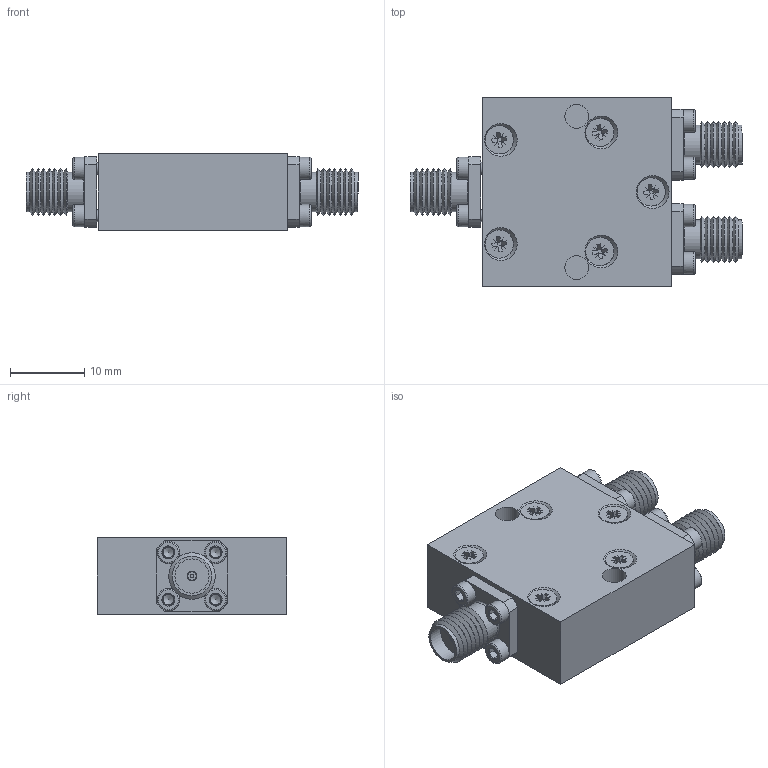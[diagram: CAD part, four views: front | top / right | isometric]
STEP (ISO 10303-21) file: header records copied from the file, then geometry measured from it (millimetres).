
FILE_DESCRIPTION(/* description */ ('Unknown'),/* implementation_level */ '2;1');
FILE_NAME(/* name */ 'DETI_MICROWAVE_2-WAY_POWER_DIVIDER_800281_STEP',/* time_stamp */ '2021-06-30T13:54:08+02:00',/* author */ ('ALG'),/* organization */ ('DETI'),/* preprocessor_version */ 'ST-DEVELOPER v16.7',/* originating_system */ 'Solid Edge',/* authorisation */ 'Unknown');
FILE_SCHEMA (('AUTOMOTIVE_DESIGN {1 0 10303 214 3 1 1}'));
Length unit declared in the file: millimetre
Products named in the file (1): 800051 0A 1601A2
Bounding box: 44.6 x 25.4 x 10.29 mm (x, y, z)
Volume: 7447.7 mm3; surface area: 4440.6 mm2
Topology: 1 solids, 23 shells, 579 faces, 1413 edges, 923 vertices
Faces by surface type: plane 322, cone 117, cylinder 108, torus 32
Full cylindrical faces by diameter (mm): 0.47 x3, 1.1 x3, 1.221 x12, 1.27 x6, 1.567 x5, 1.6 x12, 1.8 x12, 3 x12, 3.2 x4, 3.8 x5, 4.1 x3, 4.6 x3, 5.3 x6
Entity records: 19001 total; most frequent: CARTESIAN_POINT 2856, DIRECTION 2448, ORIENTED_EDGE 2158, EDGE_CURVE 1079, AXIS2_PLACEMENT_3D 907, FACE_BOUND 894, EDGE_LOOP 870, VERTEX_POINT 833
